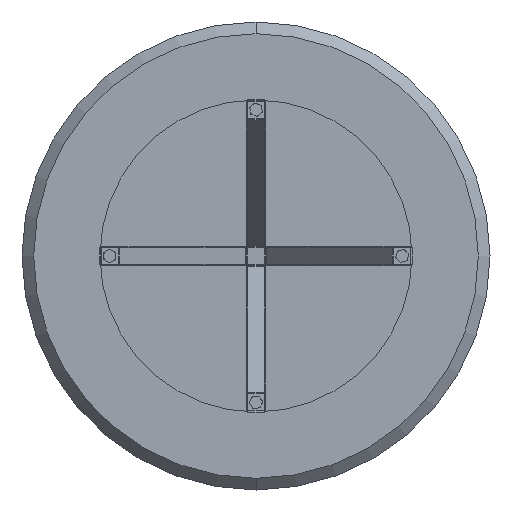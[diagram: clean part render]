
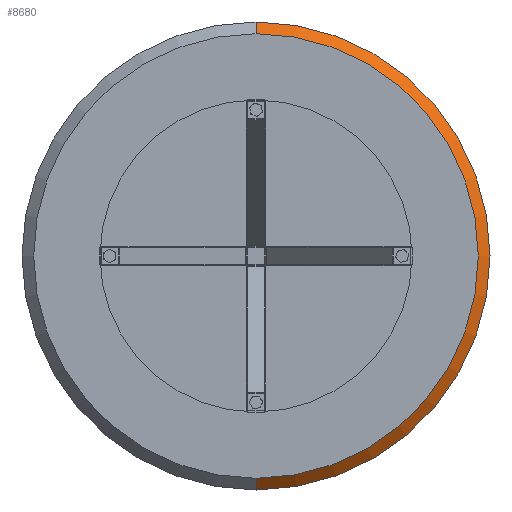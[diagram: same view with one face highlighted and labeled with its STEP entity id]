
A CAD part, front view. The second image highlights one B-rep face of the part: STEP entity #8680.
In plain terms, the highlighted conical face has half-angle 45 degrees and reference radius 300 mm.
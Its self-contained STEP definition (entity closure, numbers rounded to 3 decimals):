
#1380 = DIRECTION ( 'NONE',  ( 0., 1., 0. ) ) ;
#1628 = DIRECTION ( 'NONE',  ( 0., 0., 1. ) ) ;
#1642 = DIRECTION ( 'NONE',  ( 0., 1., 0. ) ) ;
#2295 = DIRECTION ( 'NONE',  ( 0., 0., 1. ) ) ;
#3982 = CARTESIAN_POINT ( 'NONE',  ( 0., 15., 300. ) ) ;
#4650 = CARTESIAN_POINT ( 'NONE',  ( 0., 0., 285. ) ) ;
#4710 = CARTESIAN_POINT ( 'NONE',  ( 0., 15., -300. ) ) ;
#4986 = EDGE_CURVE ( 'NONE', #12605, #15571, #11450, .T. ) ;
#5522 = AXIS2_PLACEMENT_3D ( 'NONE', #14843, #24930, #16809 ) ;
#6012 = DIRECTION ( 'NONE',  ( 0., 0.707, -0.707 ) ) ;
#7096 = VECTOR ( 'NONE', #6012, 1000. ) ;
#7307 = EDGE_LOOP ( 'NONE', ( #18175, #17243, #21950, #19808 ) ) ;
#7312 = VERTEX_POINT ( 'NONE', #12539 ) ;
#7505 = VERTEX_POINT ( 'NONE', #4710 ) ;
#8680 = ADVANCED_FACE ( 'NONE', ( #11754 ), #10429, .T. ) ;
#10429 = CONICAL_SURFACE ( 'NONE', #25935, 300., 0.785 ) ;
#11372 = CARTESIAN_POINT ( 'NONE',  ( 0., 15., 0. ) ) ;
#11450 = LINE ( 'NONE', #19463, #17631 ) ;
#11754 = FACE_OUTER_BOUND ( 'NONE', #7307, .T. ) ;
#12539 = CARTESIAN_POINT ( 'NONE',  ( 0., 0., -285. ) ) ;
#12605 = VERTEX_POINT ( 'NONE', #4650 ) ;
#12699 = AXIS2_PLACEMENT_3D ( 'NONE', #25548, #1642, #2295 ) ;
#13424 = DIRECTION ( 'NONE',  ( 0., 0.707, 0.707 ) ) ;
#14776 = CIRCLE ( 'NONE', #12699, 300. ) ;
#14843 = CARTESIAN_POINT ( 'NONE',  ( 0., 0., 0. ) ) ;
#15571 = VERTEX_POINT ( 'NONE', #3982 ) ;
#16809 = DIRECTION ( 'NONE',  ( 0., 0., 1. ) ) ;
#17243 = ORIENTED_EDGE ( 'NONE', *, *, #17581, .T. ) ;
#17581 = EDGE_CURVE ( 'NONE', #7312, #7505, #24134, .T. ) ;
#17631 = VECTOR ( 'NONE', #13424, 1000. ) ;
#18175 = ORIENTED_EDGE ( 'NONE', *, *, #22216, .F. ) ;
#18963 = CIRCLE ( 'NONE', #5522, 285. ) ;
#19463 = CARTESIAN_POINT ( 'NONE',  ( 0., 15., 300. ) ) ;
#19808 = ORIENTED_EDGE ( 'NONE', *, *, #4986, .F. ) ;
#21950 = ORIENTED_EDGE ( 'NONE', *, *, #24464, .F. ) ;
#22216 = EDGE_CURVE ( 'NONE', #7312, #12605, #18963, .T. ) ;
#24013 = CARTESIAN_POINT ( 'NONE',  ( 0., 15., -300. ) ) ;
#24134 = LINE ( 'NONE', #24013, #7096 ) ;
#24464 = EDGE_CURVE ( 'NONE', #15571, #7505, #14776, .T. ) ;
#24930 = DIRECTION ( 'NONE',  ( 0., -1., 0. ) ) ;
#25548 = CARTESIAN_POINT ( 'NONE',  ( 0., 15., 0. ) ) ;
#25935 = AXIS2_PLACEMENT_3D ( 'NONE', #11372, #1380, #1628 ) ;
